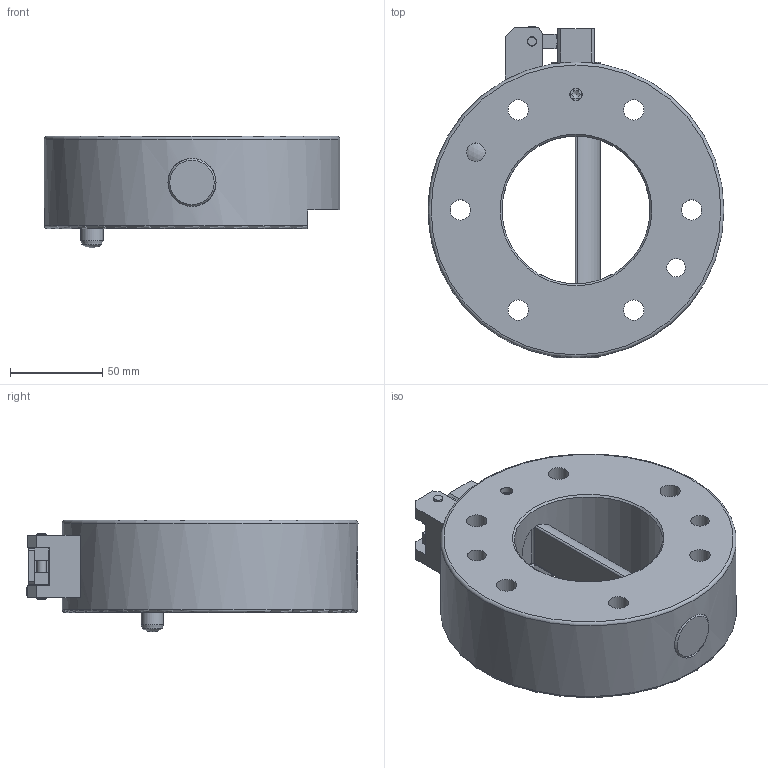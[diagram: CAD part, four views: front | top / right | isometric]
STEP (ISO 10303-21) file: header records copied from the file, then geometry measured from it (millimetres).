
FILE_DESCRIPTION(/* description */ (''),/* implementation_level */ '2;1');
FILE_NAME(/* name */ '\\dc01\daten\CAD\Standard\Daten\3D-Datenbank\Webseite 2020\SWS\160\G-SWS160-2OE.stp',/* time_stamp */ '2020-05-05T13:19:17+02:00',/* author */ ('ysplieth'),/* organization */ (''),/* preprocessor_version */ 'ST-DEVELOPER v17',/* originating_system */ 'Autodesk Inventor 2018',/* authorisation */ '');
FILE_SCHEMA (('AUTOMOTIVE_DESIGN { 1 0 10303 214 3 1 1 }'));
Length unit declared in the file: millimetre
Products named in the file (1): G-SWS160-2OE
Bounding box: 160 x 179.55 x 60.33 mm (x, y, z)
Volume: 736232.2 mm3; surface area: 110020.1 mm2
Topology: 10 solids, 10 shells, 182 faces, 491 edges, 338 vertices
Faces by surface type: plane 90, cylinder 55, cone 23, torus 8, bspline 4, sphere 2
Full cylindrical faces by diameter (mm): 3.242 x3, 4 x3, 4.134 x2, 4.5 x2, 5 x5, 5.1 x2, 5.5 x1, 6.647 x2, 7 x2, 8 x3, 10 x2, 11 x6, 12 x2, 18 x6, 26 x3, 80 x1, 160 x1
Entity records: 6571 total; most frequent: CARTESIAN_POINT 1626, DIRECTION 979, ORIENTED_EDGE 962, EDGE_CURVE 481, AXIS2_PLACEMENT_3D 381, VERTEX_POINT 338, EDGE_LOOP 241, LINE 217
